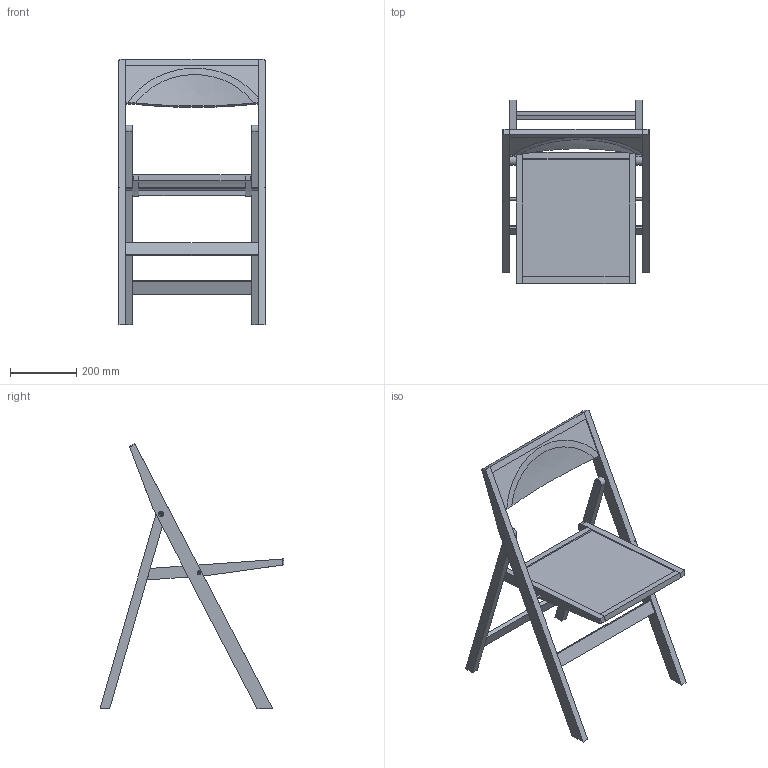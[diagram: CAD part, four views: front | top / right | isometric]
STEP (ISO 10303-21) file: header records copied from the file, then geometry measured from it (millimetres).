
FILE_DESCRIPTION(/* description */ (''),/* implementation_level */ '2;1');
FILE_NAME(/* name */ 'FRAMA_Folding Flat Chair-Unfold-3D',/* time_stamp */ '2025-11-27T22:22:32+01:00',/* author */ (''),/* organization */ (''),/* preprocessor_version */ 'ST-DEVELOPER v16.5',/* originating_system */ 'Rhino 7.38',/* authorisation */ '');
FILE_SCHEMA (('CONFIG_CONTROL_DESIGN'));
Length unit declared in the file: millimetre
Products named in the file (1): Document
Bounding box: 440 x 554.14 x 798.31 mm (x, y, z)
Volume: 5199774.8 mm3; surface area: 1088052.1 mm2
Topology: 26 solids, 26 shells, 405 faces, 904 edges, 564 vertices
Faces by surface type: plane 263, cylinder 114, bspline 28
Entity records: 10420 total; most frequent: CARTESIAN_POINT 3989, ORIENTED_EDGE 1802, EDGE_CURVE 901, B_SPLINE_CURVE_WITH_KNOTS 601, VERTEX_POINT 558, EDGE_LOOP 447, ADVANCED_FACE 405, FACE_OUTER_BOUND 405
